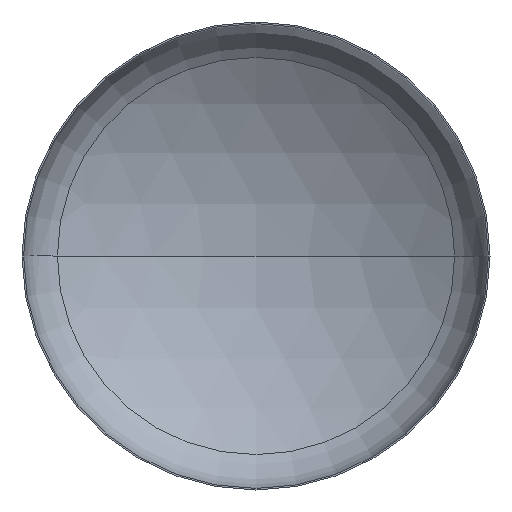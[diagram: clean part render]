
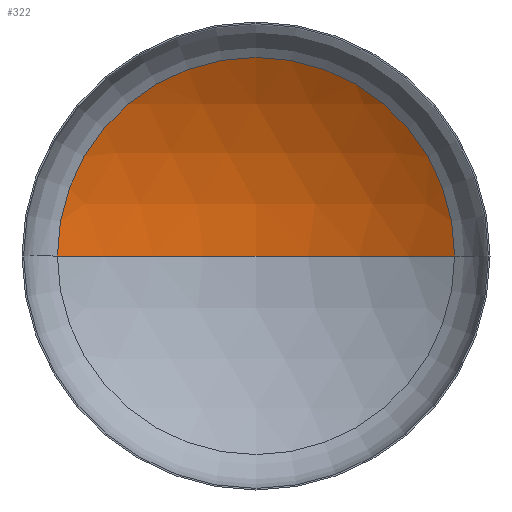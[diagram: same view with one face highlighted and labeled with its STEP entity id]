
A CAD part, front view. The second image highlights one B-rep face of the part: STEP entity #322.
In plain terms, the highlighted spherical face has radius 5200 mm.
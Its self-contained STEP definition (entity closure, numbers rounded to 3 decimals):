
#10 = AXIS2_PLACEMENT_3D ( 'NONE', #184, #182, #346 ) ;
#33 = ORIENTED_EDGE ( 'NONE', *, *, #141, .T. ) ;
#44 = ORIENTED_EDGE ( 'NONE', *, *, #146, .T. ) ;
#46 = VERTEX_POINT ( 'NONE', #88 ) ;
#54 = AXIS2_PLACEMENT_3D ( 'NONE', #252, #397, #300 ) ;
#60 = VERTEX_POINT ( 'NONE', #246 ) ;
#66 = AXIS2_PLACEMENT_3D ( 'NONE', #181, #180, #257 ) ;
#71 = AXIS2_PLACEMENT_3D ( 'NONE', #219, #201, #204 ) ;
#81 = VERTEX_POINT ( 'NONE', #262 ) ;
#88 = CARTESIAN_POINT ( 'NONE',  ( -2758.476, 917.7, 0. ) ) ;
#100 = ORIENTED_EDGE ( 'NONE', *, *, #151, .F. ) ;
#108 = EDGE_LOOP ( 'NONE', ( #100, #44, #33 ) ) ;
#141 = EDGE_CURVE ( 'NONE', #60, #46, #234, .T. ) ;
#146 = EDGE_CURVE ( 'NONE', #81, #60, #229, .T. ) ;
#151 = EDGE_CURVE ( 'NONE', #81, #46, #394, .T. ) ;
#180 = DIRECTION ( 'NONE',  ( 0., 0., -1. ) ) ;
#181 = CARTESIAN_POINT ( 'NONE',  ( 0., -3490.339, 0. ) ) ;
#182 = DIRECTION ( 'NONE',  ( 0., 0., -1. ) ) ;
#184 = CARTESIAN_POINT ( 'NONE',  ( 0., -3490.339, 0. ) ) ;
#201 = DIRECTION ( 'NONE',  ( 0., -1., 0. ) ) ;
#204 = DIRECTION ( 'NONE',  ( 1., 0., 0. ) ) ;
#207 = FACE_OUTER_BOUND ( 'NONE', #108, .T. ) ;
#219 = CARTESIAN_POINT ( 'NONE',  ( 0., 917.7, 0. ) ) ;
#229 = CIRCLE ( 'NONE', #66, 5200. ) ;
#234 = CIRCLE ( 'NONE', #71, 2758.476 ) ;
#246 = CARTESIAN_POINT ( 'NONE',  ( 2758.476, 917.7, 0. ) ) ;
#252 = CARTESIAN_POINT ( 'NONE',  ( 0., -3490.339, 0. ) ) ;
#257 = DIRECTION ( 'NONE',  ( -1., 0., 0. ) ) ;
#262 = CARTESIAN_POINT ( 'NONE',  ( 0., 1709.661, 0. ) ) ;
#267 = SPHERICAL_SURFACE ( 'NONE', #10, 5200. ) ;
#300 = DIRECTION ( 'NONE',  ( 1., 0., 0. ) ) ;
#322 = ADVANCED_FACE ( 'NONE', ( #207 ), #267, .F. ) ;
#346 = DIRECTION ( 'NONE',  ( -1., 0., 0. ) ) ;
#394 = CIRCLE ( 'NONE', #54, 5200. ) ;
#397 = DIRECTION ( 'NONE',  ( 0., 0., 1. ) ) ;
